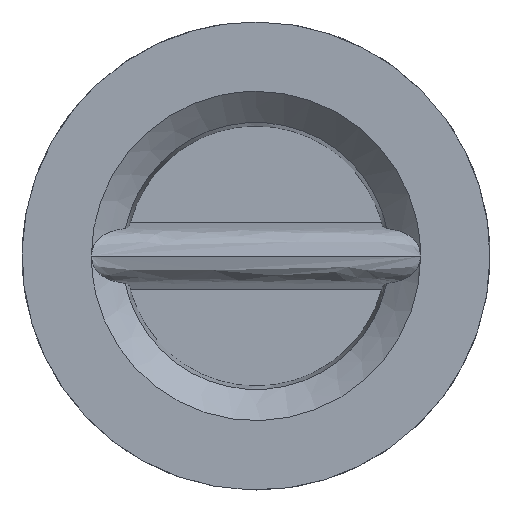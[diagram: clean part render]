
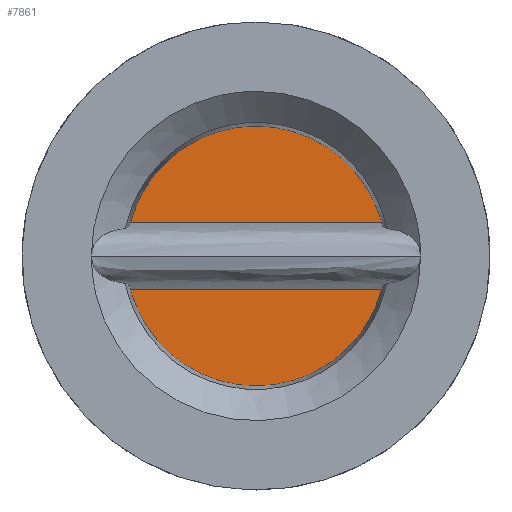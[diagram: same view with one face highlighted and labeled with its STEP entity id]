
A CAD part, left-side view. The second image highlights one B-rep face of the part: STEP entity #7861.
In plain terms, the highlighted planar face has unit normal (-1, 0, 0).
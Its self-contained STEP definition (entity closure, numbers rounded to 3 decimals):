
#7861=ADVANCED_FACE('',(#14586,#14588),#14590,.T.);
#14586=FACE_BOUND('',#14587,.T.);
#14587=EDGE_LOOP('',(#19700));
#14588=FACE_BOUND('',#14589,.T.);
#14589=EDGE_LOOP('',(#19701));
#14590=PLANE('',#14591);
#14591=AXIS2_PLACEMENT_3D('',#14592,#14593,#14594);
#14592=CARTESIAN_POINT('',(4365.663,2054.334,52.));
#14593=DIRECTION('',(-1.,0.,0.));
#14594=DIRECTION('',(0.,-1.,0.));
#19700=ORIENTED_EDGE('',*,*,#22260,.F.);
#19701=ORIENTED_EDGE('',*,*,#22261,.T.);
#22260=EDGE_CURVE('',#26489,#26489,#26490,.T.);
#22261=EDGE_CURVE('',#26491,#26491,#26492,.T.);
#26489=VERTEX_POINT('',#40080);
#26490=CIRCLE('',#40081,52.);
#26491=VERTEX_POINT('',#40085);
#26492=CIRCLE('',#40086,9.823);
#40080=CARTESIAN_POINT('',(4365.663,2086.784,40.632));
#40081=AXIS2_PLACEMENT_3D('',#40082,#40083,#40084);
#40082=CARTESIAN_POINT('',(4365.663,2054.334,0.));
#40083=DIRECTION('',(1.,0.,0.));
#40084=DIRECTION('',(0.,0.,1.));
#40085=CARTESIAN_POINT('',(4365.663,2047.388,6.946));
#40086=AXIS2_PLACEMENT_3D('',#40087,#40088,#40089);
#40087=CARTESIAN_POINT('',(4365.663,2054.334,0.));
#40088=DIRECTION('',(1.,0.,0.));
#40089=DIRECTION('',(0.,0.,1.));
